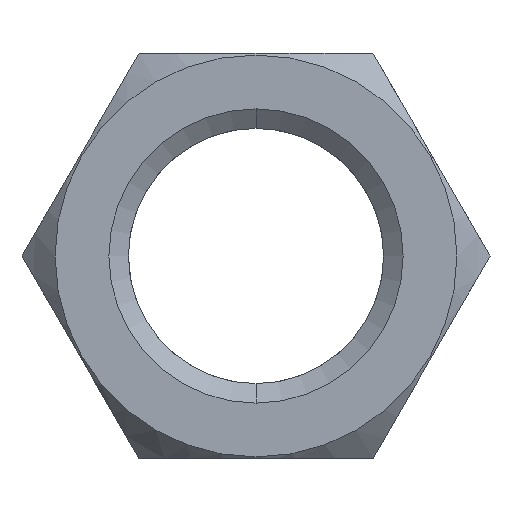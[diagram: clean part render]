
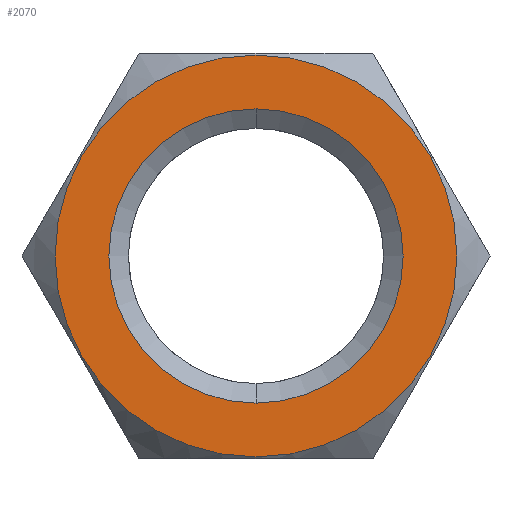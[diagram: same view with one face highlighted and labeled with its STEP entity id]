
A CAD part, front view. The second image highlights one B-rep face of the part: STEP entity #2070.
In plain terms, the highlighted planar face has unit normal (0, -1, 0).
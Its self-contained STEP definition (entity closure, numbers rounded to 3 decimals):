
#15 = DIRECTION ( 'NONE',  ( 0., 0., 1. ) ) ;
#39 = VERTEX_POINT ( 'NONE', #3089 ) ;
#127 = AXIS2_PLACEMENT_3D ( 'NONE', #2104, #1244, #1534 ) ;
#360 = ORIENTED_EDGE ( 'NONE', *, *, #3046, .T. ) ;
#537 = CARTESIAN_POINT ( 'NONE',  ( 0., -7.5, 0. ) ) ;
#575 = EDGE_LOOP ( 'NONE', ( #360, #2372 ) ) ;
#717 = VERTEX_POINT ( 'NONE', #3799 ) ;
#806 = AXIS2_PLACEMENT_3D ( 'NONE', #1747, #2294, #3505 ) ;
#898 = FACE_OUTER_BOUND ( 'NONE', #575, .T. ) ;
#1244 = DIRECTION ( 'NONE',  ( 0., -1., 0. ) ) ;
#1280 = ORIENTED_EDGE ( 'NONE', *, *, #2545, .F. ) ;
#1410 = CIRCLE ( 'NONE', #1720, 13.388 ) ;
#1478 = AXIS2_PLACEMENT_3D ( 'NONE', #3003, #1779, #15 ) ;
#1494 = FACE_BOUND ( 'NONE', #3603, .T. ) ;
#1516 = VERTEX_POINT ( 'NONE', #3393 ) ;
#1534 = DIRECTION ( 'NONE',  ( 0., 0., -1. ) ) ;
#1696 = DIRECTION ( 'NONE',  ( 0., -1., 0. ) ) ;
#1707 = CARTESIAN_POINT ( 'NONE',  ( 0., -7.5, 9.8 ) ) ;
#1720 = AXIS2_PLACEMENT_3D ( 'NONE', #537, #1696, #3122 ) ;
#1747 = CARTESIAN_POINT ( 'NONE',  ( 0., -7.5, 0. ) ) ;
#1779 = DIRECTION ( 'NONE',  ( 0., 1., 0. ) ) ;
#1906 = CIRCLE ( 'NONE', #127, 9.8 ) ;
#1982 = DIRECTION ( 'NONE',  ( 0., 0., -1. ) ) ;
#2070 = ADVANCED_FACE ( 'NONE', ( #1494, #898 ), #3023, .F. ) ;
#2104 = CARTESIAN_POINT ( 'NONE',  ( 0., -7.5, 0. ) ) ;
#2294 = DIRECTION ( 'NONE',  ( 0., -1., 0. ) ) ;
#2372 = ORIENTED_EDGE ( 'NONE', *, *, #2482, .T. ) ;
#2443 = VERTEX_POINT ( 'NONE', #1707 ) ;
#2482 = EDGE_CURVE ( 'NONE', #1516, #39, #3094, .T. ) ;
#2545 = EDGE_CURVE ( 'NONE', #2443, #717, #1906, .T. ) ;
#2742 = ORIENTED_EDGE ( 'NONE', *, *, #3017, .F. ) ;
#3003 = CARTESIAN_POINT ( 'NONE',  ( 0., -7.5, 0. ) ) ;
#3017 = EDGE_CURVE ( 'NONE', #717, #2443, #3349, .T. ) ;
#3023 = PLANE ( 'NONE',  #1478 ) ;
#3046 = EDGE_CURVE ( 'NONE', #39, #1516, #1410, .T. ) ;
#3089 = CARTESIAN_POINT ( 'NONE',  ( 0., -7.5, 13.388 ) ) ;
#3094 = CIRCLE ( 'NONE', #806, 13.388 ) ;
#3099 = AXIS2_PLACEMENT_3D ( 'NONE', #3750, #3475, #1982 ) ;
#3122 = DIRECTION ( 'NONE',  ( 0., 0., -1. ) ) ;
#3349 = CIRCLE ( 'NONE', #3099, 9.8 ) ;
#3393 = CARTESIAN_POINT ( 'NONE',  ( 0., -7.5, -13.388 ) ) ;
#3475 = DIRECTION ( 'NONE',  ( 0., -1., 0. ) ) ;
#3505 = DIRECTION ( 'NONE',  ( 0., 0., -1. ) ) ;
#3603 = EDGE_LOOP ( 'NONE', ( #1280, #2742 ) ) ;
#3750 = CARTESIAN_POINT ( 'NONE',  ( 0., -7.5, 0. ) ) ;
#3799 = CARTESIAN_POINT ( 'NONE',  ( 0., -7.5, -9.8 ) ) ;
